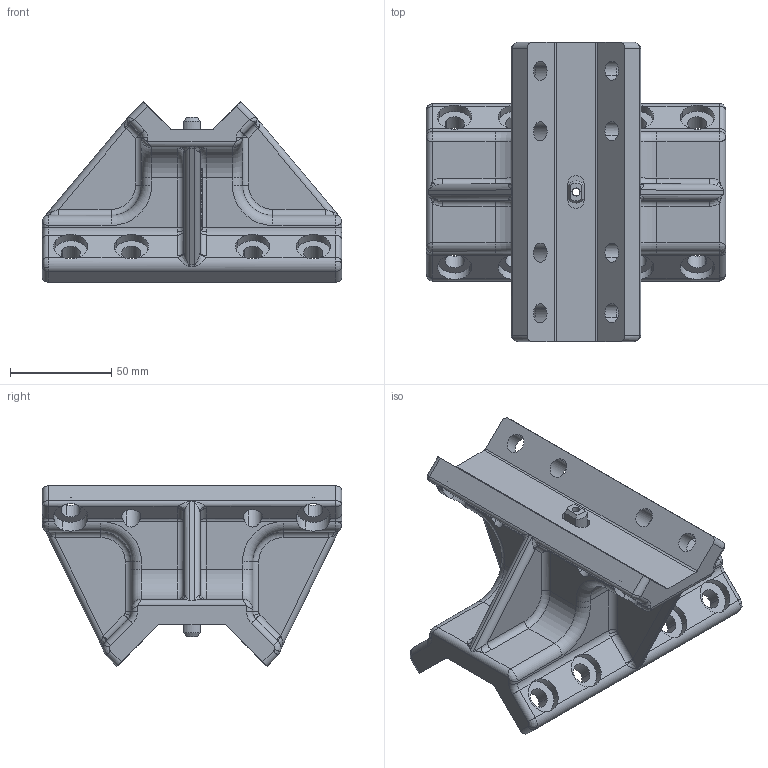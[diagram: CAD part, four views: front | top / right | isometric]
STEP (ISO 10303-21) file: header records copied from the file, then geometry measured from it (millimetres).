
FILE_DESCRIPTION(('CATIA V5 STEP Exchange'),'2;1');
FILE_NAME('C:\Users\User\Desktop\stp\EGT082.stp','2017-07-21T01:15:15+00:00',('none'),('none'),'CATIA Version 5 Release 21 GA (IN-10)','CATIA V5 STEP AP203','none');
FILE_SCHEMA(('CONFIG_CONTROL_DESIGN'));
Products named in the file (1): EGT082
Bounding box: 148 x 148 x 89.24 mm (x, y, z)
Volume: 440737.9 mm3; surface area: 77884.3 mm2
Topology: 20 solids, 20 shells, 1536 faces, 4346 edges, 2832 vertices
Faces by surface type: plane 1160, cylinder 184, extrusion 100, bspline 48, torus 24, revolution 16, cone 4
Entity records: 55115 total; most frequent: CARTESIAN_POINT 16728, ORIENTED_EDGE 8660, DIRECTION 6586, EDGE_CURVE 4330, VECTOR 3657, LINE 3557, VERTEX_POINT 2832, AXIS2_PLACEMENT_3D 1610
